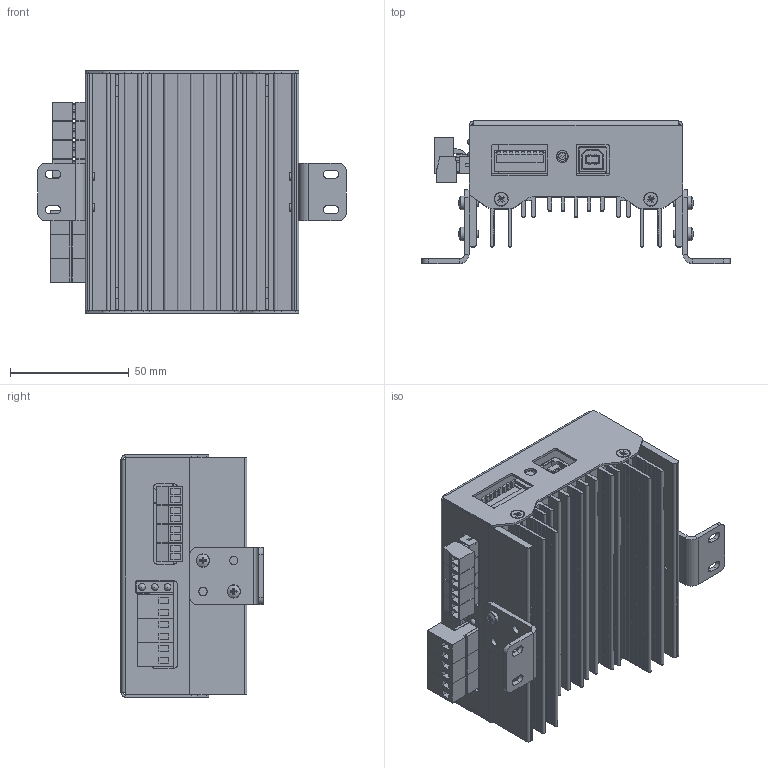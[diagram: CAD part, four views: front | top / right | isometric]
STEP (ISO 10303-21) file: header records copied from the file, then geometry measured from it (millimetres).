
FILE_DESCRIPTION(('STEP AP214'), '1');
FILE_NAME('ﾄ鰾褞 ﾘﾄ PLD880-G2', '', ('UNSPECIFIED'), ('UNSPECIFIED'), 'C3D Converter', 'C3D Toolkit', '');
FILE_SCHEMA(('AUTOMOTIVE_DESIGN { 1 0 10303 214 3 1 1}'));
Length unit declared in the file: millimetre
Products named in the file (19): PLR90x24-02.03
Assembly tree (33 placements, depth 3):
  (unnamed)
    (unnamed)
    (unnamed)
      (unnamed)
      (unnamed)  x3
      (unnamed)  x3
      (unnamed)  x4
      (unnamed)  x4
      (unnamed)
      (unnamed)
      (unnamed)
      (unnamed)
    PLR90x24-02.03  x2
    (unnamed)
    (unnamed)
    (unnamed)
    (unnamed)  x2
    (unnamed)
    (unnamed)  x4
Bounding box: 130 x 60.2 x 102 mm (x, y, z)
Volume: 124534 mm3; surface area: 152189.5 mm2
Topology: 32 solids, 32 shells, 4021 faces, 11043 edges, 7361 vertices
Faces by surface type: plane 2642, cylinder 1304, bspline 44, torus 19, cone 8, sphere 4
Full cylindrical faces by diameter (mm): 1.075 x11, 2 x8, 2.459 x4, 2.5 x20, 2.85 x3, 3 x10, 3.5 x14, 4.5 x1, 5 x1, 5.5 x4, 5.6 x4
Entity records: 83332 total; most frequent: CARTESIAN_POINT 14296, DIRECTION 12101, ORIENTED_EDGE 11848, EDGE_CURVE 5924, LINE 4061, VECTOR 4061, AXIS2_PLACEMENT_3D 4020, VERTEX_POINT 3943
